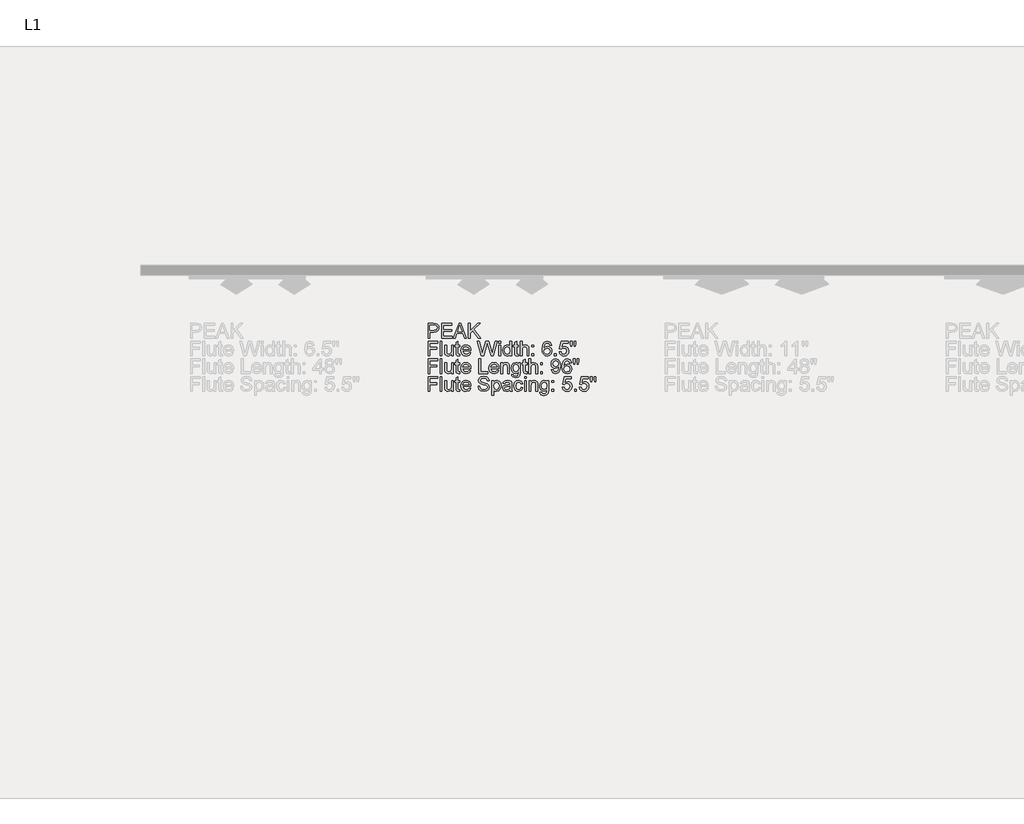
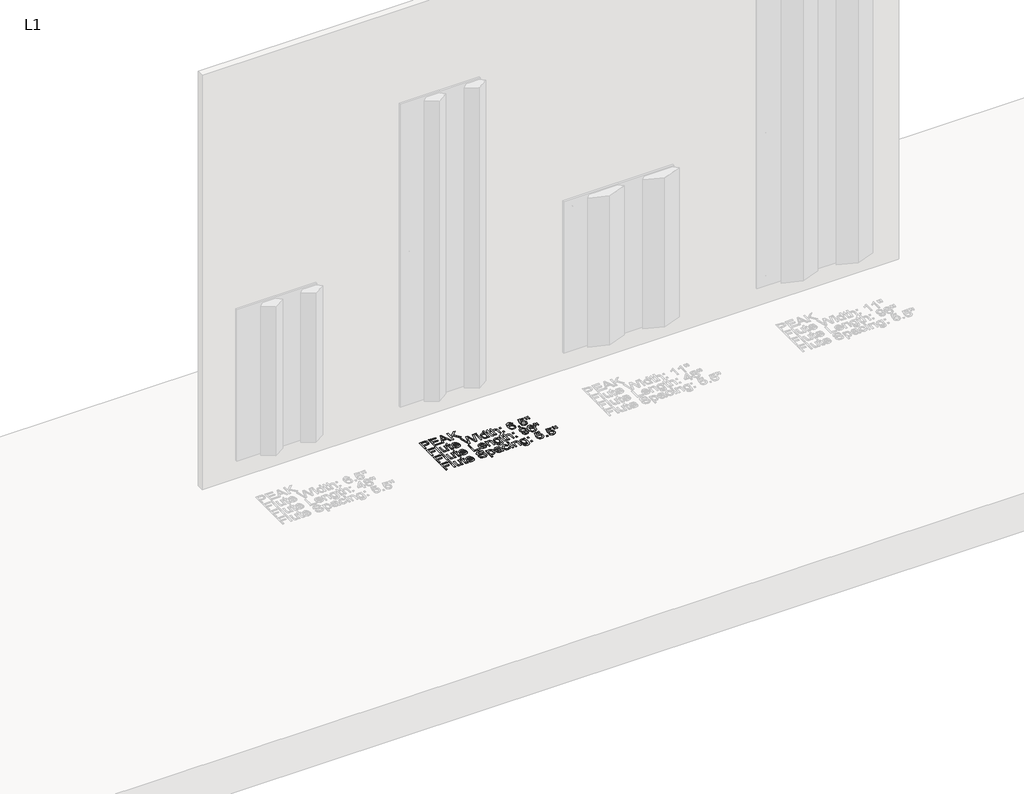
# One storey, part 8 of 17: 1 proxy.
"""IFC4 building model written with IfcOpenShell, lengths in millimetres."""

from ifc_helpers import new_model, si_unit, origin, origin_with_axes, place, context, project, spatial, polyline, outline, extrude, element, save

model = new_model("IFC4")

# Units and contexts
model_context = context("Model", 3, world=origin())
ifc_project = project(units=[si_unit("LENGTHUNIT", "METRE", prefix="MILLI")], contexts=[model_context])

# Site, building, storey
site = spatial("IfcSite", under=ifc_project)
building = spatial("IfcBuilding", under=site)
storey = spatial("IfcBuildingStorey", under=building, Name="L1", Elevation=0.0)

# Proxy
placement = place(None, origin())
element("IfcBuildingElementProxy", 1, Name="3\" Arial", ObjectType="3\" Arial", at=placement, inside=storey, context=model_context, shape_type="SweptSolid", body=[
    extrude(outline(polyline([(8828.5224056, -355.6), (8828.5224056, -279.0522917), (8856.8914049, -279.0522917), (8868.328709, -279.7811395), (8877.6261907, -283.3599691), (8883.6532014, -290.7605776), (8885.9331868, -301.198052), (8884.3937295, -310.2198797), (8879.7753573, -317.7372908), (8871.138978, -322.8111928), (8857.5454991, -324.5024935), (8838.0908691, -324.5024935), (8838.0908691, -355.6), (8828.5224056, -355.6)]), holes=[polyline([(8838.0908691, -314.9340299), (8858.1061513, -314.9340299), (8872.1972089, -311.4206097), (8876.3647233, -301.5344433), (8873.907198, -293.6105594), (8867.450354, -289.2748494), (8857.8818904, -288.6207552), (8838.0908691, -288.6207552), (8838.0908691, -314.9340299)])]), origin_with_axes(), (0.0, 0.0, 1.0), 3.175),
    extrude(outline(polyline([(8899.0898242, -355.6), (8899.0898242, -279.0522917), (8954.1084896, -279.0522917), (8954.1084896, -288.6207552), (8908.6582878, -288.6207552), (8908.6582878, -311.3458561), (8951.7163737, -311.3458561), (8951.7163737, -320.9143197), (8908.6582878, -320.9143197), (8908.6582878, -346.0315365), (8955.3045475, -346.0315365), (8955.3045475, -355.6), (8899.0898242, -355.6)])), origin_with_axes(), (0.0, 0.0, 1.0), 3.175),
    extrude(outline(polyline([(8960.7615619, -355.6), (8991.3171046, -279.0522917), (8999.4652494, -279.0522917), (9030.0021037, -355.6), (9019.8916764, -355.6), (9011.1455027, -331.6788411), (8979.5994745, -331.6788411), (8970.8533008, -355.6), (8960.7615619, -355.6)]), holes=[polyline([(8983.1128947, -322.1103776), (9007.6507709, -322.1103776), (9000.7360609, -303.2911534), (8995.3724886, -288.6207552), (8990.6069452, -301.6465737), (8983.1128947, -322.1103776)])]), origin_with_axes(), (0.0, 0.0, 1.0), 3.175),
    extrude(outline(polyline([(9040.2246615, -355.6), (9040.2246615, -279.0522917), (9049.793125, -279.0522917), (9049.793125, -316.5225444), (9089.0387762, -279.0522917), (9102.4196745, -279.0522917), (9069.4533274, -310.5235663), (9103.6157324, -355.6), (9091.9167907, -355.6), (9062.6694363, -316.9897545), (9049.793125, -329.2867253), (9049.793125, -355.6), (9040.2246615, -355.6)])), origin_with_axes(), (0.0, 0.0, 1.0), 3.175),
    extrude(outline(polyline([(8828.5224056, -448.5448112), (8828.5224056, -371.9971029), (8879.9528971, -371.9971029), (8879.9528971, -381.5655664), (8838.0908691, -381.5655664), (8838.0908691, -404.2906673), (8873.9726074, -404.2906673), (8873.9726074, -413.8591309), (8838.0908691, -413.8591309), (8838.0908691, -448.5448112), (8828.5224056, -448.5448112)])), origin_with_axes(), (0.0, 0.0, 1.0), 3.175),
    extrude(outline(polyline([(8891.9134766, -448.5448112), (8891.9134766, -371.9971029), (8901.4819401, -371.9971029), (8901.4819401, -448.5448112), (8891.9134766, -448.5448112)])), origin_with_axes(), (0.0, 0.0, 1.0), 3.175),
    extrude(outline(polyline([(8951.7163737, -448.5448112), (8951.7163737, -438.8829056), (8944.2223232, -447.0263783), (8934.4482872, -449.7408691), (8925.44982, -447.8346518), (8919.2452694, -443.05042), (8916.3952876, -436.0048912), (8915.8346354, -427.1092103), (8915.8346354, -392.3300879), (8925.403099, -392.3300879), (8925.403099, -422.6053046), (8925.9824395, -432.3606522), (8929.7668416, -438.0886484), (8936.8964683, -440.1724056), (8944.8857615, -438.0419274), (8950.1652361, -432.2391775), (8951.7163737, -421.5774423), (8951.7163737, -392.3300879), (8961.2848372, -392.3300879), (8961.2848372, -448.5448112), (8951.7163737, -448.5448112)])), origin_with_axes(), (0.0, 0.0, 1.0), 3.175),
    extrude(outline(polyline([(8994.7744596, -440.5648621), (8995.9705176, -448.8251373), (8988.8128583, -449.7408691), (8980.7955324, -448.1523547), (8976.7962137, -443.9848403), (8975.6375326, -433.1268768), (8975.6375326, -401.8985514), (8968.4611849, -401.8985514), (8968.4611849, -392.3300879), (8975.6375326, -392.3300879), (8975.6375326, -378.6688636), (8985.2059961, -373.0436536), (8985.2059961, -392.3300879), (8994.7744596, -392.3300879), (8994.7744596, -401.8985514), (8985.2059961, -401.8985514), (8985.2059961, -432.8465507), (8985.710583, -437.7802897), (8987.3458185, -439.5276556), (8990.6069452, -440.1724056), (8994.7744596, -440.5648621)])), origin_with_axes(), (0.0, 0.0, 1.0), 3.175),
    extrude(outline(polyline([(9043.7007049, -431.8), (9053.0822843, -432.9960579), (9044.308078, -445.3490939), (9027.9650675, -449.7408691), (9016.738008, -447.846332), (9008.0992927, -442.1627208), (9002.5908852, -433.0591313), (9000.7547494, -420.9046597), (9002.6095736, -408.3413792), (9008.1740463, -398.9457834), (9016.6959591, -393.0869683), (9027.4231038, -391.1340299), (9037.8161932, -393.0822962), (9046.1208533, -398.927095), (9051.5661875, -408.3040024), (9053.3812988, -420.8485945), (9053.3252336, -423.4275944), (9010.3232129, -423.4275944), (9015.8269483, -435.855384), (9028.1519516, -440.1724056), (9037.5335311, -438.1727462), (9043.7007049, -431.8)]), holes=[polyline([(9010.3232129, -413.8591309), (9043.8128353, -413.8591309), (9039.9817122, -405.1877108), (9027.385727, -400.7024935), (9015.6026874, -404.2813231), (9010.3232129, -413.8591309)])]), origin_with_axes(), (0.0, 0.0, 1.0), 3.175),
    extrude(outline(polyline([(9107.74587, -448.5448112), (9086.8709212, -371.9971029), (9096.7383993, -371.9971029), (9108.8484859, -422.3062901), (9112.586167, -437.8363549), (9116.5854857, -424.100377), (9131.7604709, -371.9971029), (9145.9823474, -371.9971029), (9157.0085065, -409.7663701), (9165.2127165, -437.8363549), (9168.8382671, -422.7548118), (9181.0417958, -371.9971029), (9190.9279622, -371.9971029), (9170.0717019, -448.5448112), (9159.8304557, -448.5448112), (9141.4597533, -389.4894503), (9138.8994417, -381.2478635), (9136.0214273, -391.1714068), (9119.2953045, -448.5448112), (9107.74587, -448.5448112)])), origin_with_axes(), (0.0, 0.0, 1.0), 3.175),
    extrude(outline(polyline([(9199.3003678, -381.5655664), (9199.3003678, -371.9971029), (9208.8688314, -371.9971029), (9208.8688314, -381.5655664), (9199.3003678, -381.5655664)])), origin_with_axes(), (0.0, 0.0, 1.0), 3.175),
    extrude(outline(polyline([(9199.3003678, -448.5448112), (9199.3003678, -392.3300879), (9208.8688314, -392.3300879), (9208.8688314, -448.5448112), (9199.3003678, -448.5448112)])), origin_with_axes(), (0.0, 0.0, 1.0), 3.175),
    extrude(outline(polyline([(9257.907207, -448.5448112), (9257.907207, -439.5183114), (9251.5765097, -447.1852297), (9242.8256639, -449.7408691), (9230.9772149, -446.0405649), (9222.6048093, -435.7152209), (9219.6333529, -420.4935148), (9222.3712043, -405.2624644), (9230.5754142, -394.778269), (9242.7882871, -391.1340299), (9251.6092144, -393.7410625), (9257.907207, -400.5156094), (9257.907207, -371.9971029), (9267.4756706, -371.9971029), (9267.4756706, -448.5448112), (9257.907207, -448.5448112)]), holes=[polyline([(9229.2018164, -420.4561379), (9233.518838, -435.2666992), (9243.704019, -440.1724056), (9253.7677252, -435.4909601), (9257.907207, -421.1849858), (9253.6929716, -405.6549209), (9243.3115625, -400.7024935), (9233.238512, -405.4586927), (9229.2018164, -420.4561379)])]), origin_with_axes(), (0.0, 0.0, 1.0), 3.175),
    extrude(outline(polyline([(9302.1613509, -440.5648621), (9303.3574089, -448.8251373), (9296.1997496, -449.7408691), (9288.1824237, -448.1523547), (9284.183105, -443.9848403), (9283.0244238, -433.1268768), (9283.0244238, -401.8985514), (9275.8480762, -401.8985514), (9275.8480762, -392.3300879), (9283.0244238, -392.3300879), (9283.0244238, -378.6688636), (9292.5928874, -373.0436536), (9292.5928874, -392.3300879), (9302.1613509, -392.3300879), (9302.1613509, -401.8985514), (9292.5928874, -401.8985514), (9292.5928874, -432.8465507), (9293.0974743, -437.7802897), (9294.7327098, -439.5276556), (9297.9938365, -440.1724056), (9302.1613509, -440.5648621)])), origin_with_axes(), (0.0, 0.0, 1.0), 3.175),
    extrude(outline(polyline([(9311.7298145, -448.5448112), (9311.7298145, -371.9971029), (9321.298278, -371.9971029), (9321.298278, -400.1418413), (9328.7596238, -393.3859828), (9337.9496472, -391.1340299), (9348.6954802, -393.5915553), (9355.2177337, -400.3847906), (9357.1800163, -412.9620874), (9357.1800163, -448.5448112), (9347.6115527, -448.5448112), (9347.6115527, -413.9525729), (9344.5653427, -403.860834), (9335.9312994, -400.7024935), (9328.0915133, -402.8329717), (9322.8587598, -408.607689), (9321.298278, -418.6807394), (9321.298278, -448.5448112), (9311.7298145, -448.5448112)])), origin_with_axes(), (0.0, 0.0, 1.0), 3.175),
    extrude(outline(polyline([(9372.7287695, -401.8985514), (9372.7287695, -392.3300879), (9382.2972331, -392.3300879), (9382.2972331, -401.8985514), (9372.7287695, -401.8985514)])), origin_with_axes(), (0.0, 0.0, 1.0), 3.175),
    extrude(outline(polyline([(9372.7287695, -448.5448112), (9372.7287695, -438.9763477), (9382.2972331, -438.9763477), (9382.2972331, -448.5448112), (9372.7287695, -448.5448112)])), origin_with_axes(), (0.0, 0.0, 1.0), 3.175),
    extrude(outline(polyline([(9476.7858106, -392.3300879), (9467.217347, -393.5261458), (9463.5917964, -385.5461967), (9454.0046444, -381.5655664), (9445.3706012, -383.8829287), (9438.8390035, -392.5823814), (9436.1198405, -409.6355512), (9444.5576555, -402.0013377), (9455.0138183, -399.5064355), (9463.853434, -401.2117525), (9471.272731, -406.3277035), (9476.3045841, -414.144129), (9477.9818685, -423.9508698), (9474.823528, -437.1542281), (9466.1334195, -446.4984308), (9453.5934995, -449.7408691), (9442.737872, -447.5917025), (9434.0921485, -441.1442027), (9428.4365698, -429.7629638), (9426.551377, -412.8125802), (9428.6444784, -393.7550788), (9434.9237826, -380.7245882), (9443.4970885, -374.1789742), (9454.6026734, -371.9971029), (9469.7215933, -377.398052), (9476.7858106, -392.3300879)]), holes=[polyline([(9436.1198405, -423.8013625), (9438.3344165, -432.0896703), (9444.2212642, -438.1073368), (9452.8459633, -440.1724056), (9464.1244159, -435.8927608), (9468.413405, -424.2685726), (9464.1804811, -413.1396273), (9452.4535068, -409.0748991), (9440.8760397, -413.1396273), (9436.1198405, -423.8013625)])]), origin_with_axes(), (0.0, 0.0, 1.0), 3.175),
    extrude(outline(polyline([(9491.1385059, -448.5448112), (9491.1385059, -438.9763477), (9500.7069694, -438.9763477), (9500.7069694, -448.5448112), (9491.1385059, -448.5448112)])), origin_with_axes(), (0.0, 0.0, 1.0), 3.175),
    extrude(outline(polyline([(9516.2557227, -428.2118262), (9525.8241862, -427.0157682), (9530.6457948, -436.8739021), (9540.6440917, -440.1724056), (9552.6420479, -435.5844021), (9556.9216927, -423.408906), (9552.9130298, -412.0463555), (9540.7935989, -407.8788411), (9532.3931607, -409.5421092), (9527.0202441, -413.8591309), (9517.4517806, -412.6630729), (9525.8241862, -373.1931608), (9562.9019824, -373.1931608), (9562.9019824, -382.7616243), (9533.561186, -382.7616243), (9529.4497368, -403.8421456), (9543.4473525, -398.3103776), (9552.3897544, -400.0250388), (9559.8183955, -405.1690224), (9564.8222161, -413.0088084), (9566.4901563, -422.810877), (9564.9904117, -432.3793406), (9560.4911781, -440.5648621), (9551.8758233, -447.4468674), (9540.6067148, -449.7408691), (9531.208783, -448.2668212), (9523.7217406, -443.8446773), (9518.5894373, -436.9883685), (9516.2557227, -428.2118262)])), origin_with_axes(), (0.0, 0.0, 1.0), 3.175),
    extrude(outline(polyline([(9577.1986125, -399.5064355), (9574.8625619, -384.7239069), (9574.8625619, -371.9971029), (9584.4310254, -371.9971029), (9584.4310254, -384.7239069), (9582.337924, -399.5064355), (9577.1986125, -399.5064355)])), origin_with_axes(), (0.0, 0.0, 1.0), 3.175),
    extrude(outline(polyline([(9596.2794744, -399.5064355), (9593.9994889, -384.7239069), (9593.9994889, -371.9971029), (9603.5679525, -371.9971029), (9603.5679525, -384.7239069), (9601.3253438, -399.5064355), (9596.2794744, -399.5064355)])), origin_with_axes(), (0.0, 0.0, 1.0), 3.175),
    extrude(outline(polyline([(8828.5224056, -541.4896224), (8828.5224056, -464.9419141), (8879.9528971, -464.9419141), (8879.9528971, -474.5103776), (8838.0908691, -474.5103776), (8838.0908691, -497.2354785), (8873.9726074, -497.2354785), (8873.9726074, -506.8039421), (8838.0908691, -506.8039421), (8838.0908691, -541.4896224), (8828.5224056, -541.4896224)])), origin_with_axes(), (0.0, 0.0, 1.0), 3.175),
    extrude(outline(polyline([(8891.9134766, -541.4896224), (8891.9134766, -464.9419141), (8901.4819401, -464.9419141), (8901.4819401, -541.4896224), (8891.9134766, -541.4896224)])), origin_with_axes(), (0.0, 0.0, 1.0), 3.175),
    extrude(outline(polyline([(8951.7163737, -541.4896224), (8951.7163737, -531.8277168), (8944.2223232, -539.9711895), (8934.4482872, -542.6856803), (8925.44982, -540.779463), (8919.2452694, -535.9952312), (8916.3952876, -528.9497024), (8915.8346354, -520.0540215), (8915.8346354, -485.2748991), (8925.403099, -485.2748991), (8925.403099, -515.5501158), (8925.9824395, -525.3054634), (8929.7668416, -531.0334596), (8936.8964683, -533.1172168), (8944.8857615, -530.9867386), (8950.1652361, -525.1839887), (8951.7163737, -514.5222535), (8951.7163737, -485.2748991), (8961.2848372, -485.2748991), (8961.2848372, -541.4896224), (8951.7163737, -541.4896224)])), origin_with_axes(), (0.0, 0.0, 1.0), 3.175),
    extrude(outline(polyline([(8994.7744596, -533.5096733), (8995.9705176, -541.7699485), (8988.8128583, -542.6856803), (8980.7955324, -541.0971659), (8976.7962137, -536.9296515), (8975.6375326, -526.071688), (8975.6375326, -494.8433626), (8968.4611849, -494.8433626), (8968.4611849, -485.2748991), (8975.6375326, -485.2748991), (8975.6375326, -471.6136748), (8985.2059961, -465.9884648), (8985.2059961, -485.2748991), (8994.7744596, -485.2748991), (8994.7744596, -494.8433626), (8985.2059961, -494.8433626), (8985.2059961, -525.7913619), (8985.710583, -530.7251009), (8987.3458185, -532.4724668), (8990.6069452, -533.1172168), (8994.7744596, -533.5096733)])), origin_with_axes(), (0.0, 0.0, 1.0), 3.175),
    extrude(outline(polyline([(9043.7007049, -524.7448112), (9053.0822843, -525.9408691), (9044.308078, -538.2939051), (9027.9650675, -542.6856803), (9016.738008, -540.7911432), (9008.0992927, -535.107532), (9002.5908852, -526.0039425), (9000.7547494, -513.8494709), (9002.6095736, -501.2861904), (9008.1740463, -491.8905946), (9016.6959591, -486.0317795), (9027.4231038, -484.0788411), (9037.8161932, -486.0271074), (9046.1208533, -491.8719062), (9051.5661875, -501.2488136), (9053.3812988, -513.7934057), (9053.3252336, -516.3724056), (9010.3232129, -516.3724056), (9015.8269483, -528.8001952), (9028.1519516, -533.1172168), (9037.5335311, -531.1175574), (9043.7007049, -524.7448112)]), holes=[polyline([(9010.3232129, -506.8039421), (9043.8128353, -506.8039421), (9039.9817122, -498.132522), (9027.385727, -493.6473047), (9015.6026874, -497.2261343), (9010.3232129, -506.8039421)])]), origin_with_axes(), (0.0, 0.0, 1.0), 3.175),
    extrude(outline(polyline([(9094.0472689, -541.4896224), (9094.0472689, -464.9419141), (9103.6157324, -464.9419141), (9103.6157324, -531.9211589), (9141.8895866, -531.9211589), (9141.8895866, -541.4896224), (9094.0472689, -541.4896224)])), origin_with_axes(), (0.0, 0.0, 1.0), 3.175),
    extrude(outline(polyline([(9190.8158318, -524.7448112), (9200.1974113, -525.9408691), (9191.423205, -538.2939051), (9175.0801945, -542.6856803), (9163.853135, -540.7911432), (9155.2144196, -535.107532), (9149.7060121, -526.0039425), (9147.8698763, -513.8494709), (9149.7247005, -501.2861904), (9155.2891732, -491.8905946), (9163.8110861, -486.0317795), (9174.5382307, -484.0788411), (9184.9313202, -486.0271074), (9193.2359803, -491.8719062), (9198.6813144, -501.2488136), (9200.4964258, -513.7934057), (9200.4403606, -516.3724056), (9157.4383398, -516.3724056), (9162.9420752, -528.8001952), (9175.2670786, -533.1172168), (9184.648658, -531.1175574), (9190.8158318, -524.7448112)]), holes=[polyline([(9157.4383398, -506.8039421), (9190.9279622, -506.8039421), (9187.0968391, -498.132522), (9174.5008539, -493.6473047), (9162.7178144, -497.2261343), (9157.4383398, -506.8039421)])]), origin_with_axes(), (0.0, 0.0, 1.0), 3.175),
    extrude(outline(polyline([(9210.0648893, -541.4896224), (9210.0648893, -485.2748991), (9219.6333529, -485.2748991), (9219.6333529, -493.1240293), (9226.9498636, -486.3401382), (9236.9388162, -484.0788411), (9245.9746602, -485.9009607), (9252.141834, -490.6851924), (9255.0105042, -497.7213771), (9255.5150911, -506.9721377), (9255.5150911, -541.4896224), (9245.9466276, -541.4896224), (9245.9466276, -508.2616377), (9244.8440117, -499.79579), (9240.9474792, -495.319917), (9234.3785047, -493.6473047), (9223.9970955, -497.4036742), (9219.6333529, -511.6629274), (9219.6333529, -541.4896224), (9210.0648893, -541.4896224)])), origin_with_axes(), (0.0, 0.0, 1.0), 3.175),
    extrude(outline(polyline([(9266.2796126, -546.2738542), (9275.8480762, -547.4699121), (9278.9503515, -552.5157816), (9288.2384889, -554.6462598), (9298.0312133, -552.2354555), (9302.7033147, -545.4702527), (9303.3574089, -534.3132747), (9296.6202387, -539.6955355), (9288.4066846, -541.4896224), (9278.5415426, -539.4011931), (9271.185319, -533.1359052), (9266.6089958, -523.950554), (9265.0835547, -513.1019347), (9267.8214061, -498.272685), (9275.7452899, -487.7791454), (9287.9394744, -484.0788411), (9296.4754036, -486.1719425), (9303.3574089, -492.4512467), (9303.3574089, -485.2748991), (9312.9258724, -485.2748991), (9312.9258724, -533.8086878), (9310.3094957, -552.3943069), (9302.0211879, -561.0376944), (9288.0516049, -564.2147233), (9272.1384277, -559.7388502), (9267.6415302, -554.1346647), (9266.2796126, -546.2738542)]), holes=[polyline([(9274.6520182, -512.4478405), (9278.7354348, -527.2584017), (9288.9860251, -531.9211589), (9299.2179271, -527.2864343), (9303.3574089, -512.7281666), (9299.0964524, -498.4595691), (9288.8365179, -493.6473047), (9278.7915, -498.3848154), (9274.6520182, -512.4478405)])]), origin_with_axes(), (0.0, 0.0, 1.0), 3.175),
    extrude(outline(polyline([(9347.6115527, -533.5096733), (9348.8076107, -541.7699485), (9341.6499514, -542.6856803), (9333.6326255, -541.0971659), (9329.6333068, -536.9296515), (9328.4746257, -526.071688), (9328.4746257, -494.8433626), (9321.298278, -494.8433626), (9321.298278, -485.2748991), (9328.4746257, -485.2748991), (9328.4746257, -471.6136748), (9338.0430892, -465.9884648), (9338.0430892, -485.2748991), (9347.6115527, -485.2748991), (9347.6115527, -494.8433626), (9338.0430892, -494.8433626), (9338.0430892, -525.7913619), (9338.5476761, -530.7251009), (9340.1829116, -532.4724668), (9343.4440383, -533.1172168), (9347.6115527, -533.5096733)])), origin_with_axes(), (0.0, 0.0, 1.0), 3.175),
    extrude(outline(polyline([(9357.1800163, -541.4896224), (9357.1800163, -464.9419141), (9366.7484798, -464.9419141), (9366.7484798, -493.0866525), (9374.2098257, -486.330794), (9383.399849, -484.0788411), (9394.1456821, -486.5363664), (9400.6679355, -493.3296018), (9402.6302181, -505.9068986), (9402.6302181, -541.4896224), (9393.0617546, -541.4896224), (9393.0617546, -506.8973841), (9390.0155445, -496.8056452), (9381.3815012, -493.6473047), (9373.5417152, -495.7777829), (9368.3089617, -501.5525002), (9366.7484798, -511.6255506), (9366.7484798, -541.4896224), (9357.1800163, -541.4896224)])), origin_with_axes(), (0.0, 0.0, 1.0), 3.175),
    extrude(outline(polyline([(9418.1789714, -494.8433626), (9418.1789714, -485.2748991), (9427.7474349, -485.2748991), (9427.7474349, -494.8433626), (9418.1789714, -494.8433626)])), origin_with_axes(), (0.0, 0.0, 1.0), 3.175),
    extrude(outline(polyline([(9418.1789714, -541.4896224), (9418.1789714, -531.9211589), (9427.7474349, -531.9211589), (9427.7474349, -541.4896224), (9418.1789714, -541.4896224)])), origin_with_axes(), (0.0, 0.0, 1.0), 3.175),
    extrude(outline(polyline([(9474.3936947, -522.3526953), (9483.9621582, -521.1566374), (9488.2604914, -530.2859234), (9496.4086362, -533.1172168), (9504.1549802, -531.2950973), (9509.4064221, -526.4267677), (9512.53673, -518.1104273), (9513.919672, -507.0095145), (9513.8636068, -505.140674), (9506.2107048, -512.3917753), (9495.7171652, -515.1763477), (9486.9920159, -513.4757028), (9479.7292344, -508.3737681), (9474.8305361, -500.4919331), (9473.1976367, -490.4515874), (9474.9099619, -480.0795224), (9480.0469373, -471.9500661), (9487.7629126, -466.6939521), (9497.2122376, -464.9419141), (9510.8454293, -468.9412328), (9520.2270088, -480.3411601), (9523.4320703, -501.7580726), (9520.236353, -524.9971047), (9510.7332989, -538.1630862), (9495.9601144, -542.6856803), (9481.2523394, -537.3501406), (9474.3936947, -522.3526953)]), holes=[polyline([(9513.8636068, -490.2273265), (9509.7334692, -478.7526456), (9498.7633753, -474.5103776), (9487.2513176, -479.0796927), (9482.7661003, -490.9187975), (9487.0083683, -501.5244675), (9498.5017376, -505.6078841), (9509.5372409, -501.5244675), (9513.8636068, -490.2273265)])]), origin_with_axes(), (0.0, 0.0, 1.0), 3.175),
    extrude(outline(polyline([(9580.8428516, -485.2748991), (9571.274388, -486.470957), (9567.6488374, -478.4910079), (9558.0616854, -474.5103776), (9549.4276422, -476.8277399), (9542.8960445, -485.5271926), (9540.1768815, -502.5803624), (9548.6146965, -494.9461489), (9559.0708593, -492.4512467), (9567.9104751, -494.1565637), (9575.329772, -499.2725147), (9580.3616251, -507.0889402), (9582.0389095, -516.8956809), (9578.880569, -530.0990393), (9570.1904605, -539.443242), (9557.6505405, -542.6856803), (9546.7949131, -540.5365137), (9538.1491895, -534.0890139), (9532.4936109, -522.707775), (9530.608418, -505.7573914), (9532.7015194, -486.69989), (9538.9808236, -473.6693994), (9547.5541295, -467.1237854), (9558.6597144, -464.9419141), (9573.7786343, -470.3428632), (9580.8428516, -485.2748991)]), holes=[polyline([(9540.1768815, -516.7461737), (9542.3914576, -525.0344815), (9548.2783052, -531.052148), (9556.9030043, -533.1172168), (9568.1814569, -528.837572), (9572.470446, -517.2133838), (9568.2375222, -506.0844385), (9556.5105478, -502.0197103), (9544.9330807, -506.0844385), (9540.1768815, -516.7461737)])]), origin_with_axes(), (0.0, 0.0, 1.0), 3.175),
    extrude(outline(polyline([(9592.7473658, -492.4512467), (9590.4113151, -477.6687181), (9590.4113151, -464.9419141), (9599.9797787, -464.9419141), (9599.9797787, -477.6687181), (9597.8866773, -492.4512467), (9592.7473658, -492.4512467)])), origin_with_axes(), (0.0, 0.0, 1.0), 3.175),
    extrude(outline(polyline([(9611.8282276, -492.4512467), (9609.5482422, -477.6687181), (9609.5482422, -464.9419141), (9619.1167057, -464.9419141), (9619.1167057, -477.6687181), (9616.8740971, -492.4512467), (9611.8282276, -492.4512467)])), origin_with_axes(), (0.0, 0.0, 1.0), 3.175),
    extrude(outline(polyline([(8828.5224056, -634.4344336), (8828.5224056, -557.8867253), (8879.9528971, -557.8867253), (8879.9528971, -567.4551888), (8838.0908691, -567.4551888), (8838.0908691, -590.1802897), (8873.9726074, -590.1802897), (8873.9726074, -599.7487533), (8838.0908691, -599.7487533), (8838.0908691, -634.4344336), (8828.5224056, -634.4344336)])), origin_with_axes(), (0.0, 0.0, 1.0), 3.175),
    extrude(outline(polyline([(8891.9134766, -634.4344336), (8891.9134766, -557.8867253), (8901.4819401, -557.8867253), (8901.4819401, -634.4344336), (8891.9134766, -634.4344336)])), origin_with_axes(), (0.0, 0.0, 1.0), 3.175),
    extrude(outline(polyline([(8951.7163737, -634.4344336), (8951.7163737, -624.772528), (8944.2223232, -632.9160007), (8934.4482872, -635.6304915), (8925.44982, -633.7242742), (8919.2452694, -628.9400424), (8916.3952876, -621.8945136), (8915.8346354, -612.9988327), (8915.8346354, -578.2197103), (8925.403099, -578.2197103), (8925.403099, -608.494927), (8925.9824395, -618.2502746), (8929.7668416, -623.9782708), (8936.8964683, -626.062028), (8944.8857615, -623.9315498), (8950.1652361, -618.1287999), (8951.7163737, -607.4670647), (8951.7163737, -578.2197103), (8961.2848372, -578.2197103), (8961.2848372, -634.4344336), (8951.7163737, -634.4344336)])), origin_with_axes(), (0.0, 0.0, 1.0), 3.175),
    extrude(outline(polyline([(8994.7744596, -626.4544845), (8995.9705176, -634.7147597), (8988.8128583, -635.6304915), (8980.7955324, -634.0419771), (8976.7962137, -629.8744627), (8975.6375326, -619.0164992), (8975.6375326, -587.7881738), (8968.4611849, -587.7881738), (8968.4611849, -578.2197103), (8975.6375326, -578.2197103), (8975.6375326, -564.558486), (8985.2059961, -558.933276), (8985.2059961, -578.2197103), (8994.7744596, -578.2197103), (8994.7744596, -587.7881738), (8985.2059961, -587.7881738), (8985.2059961, -618.7361731), (8985.710583, -623.6699121), (8987.3458185, -625.417278), (8990.6069452, -626.062028), (8994.7744596, -626.4544845)])), origin_with_axes(), (0.0, 0.0, 1.0), 3.175),
    extrude(outline(polyline([(9043.7007049, -617.6896224), (9053.0822843, -618.8856803), (9044.308078, -631.2387163), (9027.9650675, -635.6304915), (9016.738008, -633.7359544), (9008.0992927, -628.0523432), (9002.5908852, -618.9487537), (9000.7547494, -606.7942821), (9002.6095736, -594.2310016), (9008.1740463, -584.8354058), (9016.6959591, -578.9765907), (9027.4231038, -577.0236523), (9037.8161932, -578.9719186), (9046.1208533, -584.8167174), (9051.5661875, -594.1936248), (9053.3812988, -606.7382169), (9053.3252336, -609.3172168), (9010.3232129, -609.3172168), (9015.8269483, -621.7450064), (9028.1519516, -626.062028), (9037.5335311, -624.0623686), (9043.7007049, -617.6896224)]), holes=[polyline([(9010.3232129, -599.7487533), (9043.8128353, -599.7487533), (9039.9817122, -591.0773332), (9027.385727, -586.5921159), (9015.6026874, -590.1709455), (9010.3232129, -599.7487533)])]), origin_with_axes(), (0.0, 0.0, 1.0), 3.175),
    extrude(outline(polyline([(9090.4590951, -608.1211589), (9100.0275586, -608.1211589), (9103.1111455, -617.6989666), (9110.6425728, -623.7540099), (9122.1172537, -626.062028), (9132.1155506, -624.3146621), (9138.5723946, -619.5117419), (9140.6935286, -613.0922747), (9139.1050142, -607.1213292), (9132.6014491, -602.7762749), (9118.6692429, -599.1226917), (9103.6717976, -594.4038693), (9095.5329971, -587.2835869), (9092.8512109, -577.7711886), (9096.1684029, -566.9412577), (9105.8583411, -559.2976999), (9120.0428407, -556.6906673), (9135.1804491, -559.4191745), (9145.272188, -567.4365004), (9149.0659342, -579.4157682), (9139.4974707, -579.4157682), (9134.0778332, -569.585667), (9120.4166088, -566.2591309), (9106.7180077, -569.5482902), (9102.4196745, -577.4908625), (9105.4658846, -584.1252464), (9121.0893914, -589.4701303), (9138.0210867, -594.2730505), (9147.2811915, -602.0287387), (9150.2619922, -612.8493254), (9146.8326698, -624.2959737), (9136.9651918, -632.6496909), (9122.4910218, -635.6304915), (9105.4004751, -632.4160858), (9094.5892326, -622.7354918), (9090.4590951, -608.1211589)])), origin_with_axes(), (0.0, 0.0, 1.0), 3.175),
    extrude(outline(polyline([(9163.4186296, -655.9634766), (9163.4186296, -578.2197103), (9172.9870931, -578.2197103), (9172.9870931, -587.6012898), (9179.6027886, -579.6680617), (9188.5358464, -577.0236523), (9200.6646214, -580.7239566), (9208.5885053, -591.1520868), (9211.2609473, -605.8972386), (9208.2427698, -621.3992709), (9199.4779077, -631.9582199), (9187.3771652, -635.6304915), (9179.0514806, -633.1729662), (9172.9870931, -626.9590715), (9172.9870931, -655.9634766), (9163.4186296, -655.9634766)]), holes=[polyline([(9172.9870931, -606.7755937), (9177.1265749, -621.3525498), (9187.1715928, -626.062028), (9197.4221831, -621.1843542), (9201.6924837, -606.0654343), (9197.5249693, -591.4511013), (9187.5640493, -586.5921159), (9177.406901, -591.75946), (9172.9870931, -606.7755937)])]), origin_with_axes(), (0.0, 0.0, 1.0), 3.175),
    extrude(outline(polyline([(9257.907207, -627.2580859), (9248.6284138, -633.7429626), (9238.3778234, -635.6304915), (9224.4829941, -631.089209), (9219.6333529, -619.4837093), (9221.4648166, -611.9149051), (9226.277081, -606.420514), (9232.9768743, -603.2808619), (9241.2558379, -601.8418547), (9257.8511418, -598.5526953), (9257.907207, -596.4222171), (9255.2721419, -589.3579999), (9244.6945044, -586.5921159), (9235.0139105, -588.4329238), (9230.3978744, -594.9645215), (9220.8294108, -593.7684635), (9224.9688926, -584.4242609), (9233.3039214, -578.9485581), (9245.9279392, -577.0236523), (9257.5240947, -578.7242972), (9264.0743808, -582.9945979), (9267.0084604, -589.4888187), (9267.4756706, -597.8612243), (9267.4756706, -609.7657385), (9267.9615691, -626.3890751), (9269.8677865, -634.4344336), (9260.2993229, -634.4344336), (9257.907207, -627.2580859)]), holes=[polyline([(9257.907207, -608.1211589), (9242.4705842, -611.0552385), (9234.2383417, -612.6063761), (9230.5100048, -615.1293109), (9229.2018164, -618.8109267), (9232.0517982, -623.987615), (9240.4148596, -626.062028), (9250.0954536, -623.7726983), (9256.337381, -618.2315862), (9257.8511418, -610.8309776), (9257.907207, -608.1211589)])]), origin_with_axes(), (0.0, 0.0, 1.0), 3.175),
    extrude(outline(polyline([(9316.5140462, -614.1014486), (9326.0825098, -615.2975065), (9318.4015752, -630.2388866), (9303.22659, -635.6304915), (9293.0484173, -633.7499707), (9285.0894926, -628.1084084), (9279.9525172, -618.9534258), (9278.2401921, -606.5326444), (9281.1649275, -590.6381556), (9290.0792969, -580.4249421), (9303.0957712, -577.0236523), (9317.6446948, -581.6957537), (9324.8864518, -594.9645215), (9315.3179883, -596.1605794), (9310.879492, -588.993576), (9303.1705248, -586.5921159), (9292.0789562, -591.3202824), (9287.8086556, -606.2710067), (9291.9855142, -621.361894), (9302.9088871, -626.062028), (9311.9260427, -623.1279484), (9316.5140462, -614.1014486)])), origin_with_axes(), (0.0, 0.0, 1.0), 3.175),
    extrude(outline(polyline([(9334.4549154, -634.4344336), (9334.4549154, -578.2197103), (9344.0233789, -578.2197103), (9344.0233789, -634.4344336), (9334.4549154, -634.4344336)])), origin_with_axes(), (0.0, 0.0, 1.0), 3.175),
    extrude(outline(polyline([(9334.4549154, -567.4551888), (9334.4549154, -557.8867253), (9344.0233789, -557.8867253), (9344.0233789, -567.4551888), (9334.4549154, -567.4551888)])), origin_with_axes(), (0.0, 0.0, 1.0), 3.175),
    extrude(outline(polyline([(9358.3760742, -634.4344336), (9358.3760742, -578.2197103), (9367.9445378, -578.2197103), (9367.9445378, -586.0688405), (9375.2610485, -579.2849494), (9385.2500011, -577.0236523), (9394.2858451, -578.8457719), (9400.4530189, -583.6300036), (9403.3216891, -590.6661883), (9403.826276, -599.9169489), (9403.826276, -634.4344336), (9394.2578125, -634.4344336), (9394.2578125, -601.2064489), (9393.1551966, -592.7406012), (9389.2586641, -588.2647282), (9382.6896896, -586.5921159), (9372.3082804, -590.3484854), (9367.9445378, -604.6077386), (9367.9445378, -634.4344336), (9358.3760742, -634.4344336)])), origin_with_axes(), (0.0, 0.0, 1.0), 3.175),
    extrude(outline(polyline([(9414.5907975, -639.2186654), (9424.1592611, -640.4147233), (9427.2615364, -645.4605928), (9436.5496738, -647.591071), (9446.3423982, -645.1802667), (9451.0144996, -638.4150639), (9451.6685938, -627.2580859), (9444.9314236, -632.6403467), (9436.7178695, -634.4344336), (9426.8527275, -632.3460043), (9419.4965039, -626.0807164), (9414.9201807, -616.8953652), (9413.3947396, -606.0467459), (9416.132591, -591.2174962), (9424.0564748, -580.7239566), (9436.2506593, -577.0236523), (9444.7865885, -579.1167537), (9451.6685938, -585.3960579), (9451.6685938, -578.2197103), (9461.2370573, -578.2197103), (9461.2370573, -626.753499), (9458.6206805, -645.3391181), (9450.3323728, -653.9825056), (9436.3627898, -657.1595345), (9420.4496126, -652.6836614), (9415.9527151, -647.0794759), (9414.5907975, -639.2186654)]), holes=[polyline([(9422.9632031, -605.3926517), (9427.0466197, -620.2032129), (9437.29721, -624.8659701), (9447.529112, -620.2312455), (9451.6685938, -605.6729778), (9447.4076373, -591.4043803), (9437.1477028, -586.5921159), (9427.1026849, -591.3296266), (9422.9632031, -605.3926517)])]), origin_with_axes(), (0.0, 0.0, 1.0), 3.175),
    extrude(outline(polyline([(9477.9818685, -634.4344336), (9477.9818685, -624.8659701), (9487.550332, -624.8659701), (9487.550332, -634.4344336), (9477.9818685, -634.4344336)])), origin_with_axes(), (0.0, 0.0, 1.0), 3.175),
    extrude(outline(polyline([(9477.9818685, -587.7881738), (9477.9818685, -578.2197103), (9487.550332, -578.2197103), (9487.550332, -587.7881738), (9477.9818685, -587.7881738)])), origin_with_axes(), (0.0, 0.0, 1.0), 3.175),
    extrude(outline(polyline([(9533.0005339, -614.1014486), (9542.5689974, -612.9053906), (9547.390606, -622.7635245), (9557.3889028, -626.062028), (9569.3868591, -621.4740245), (9573.6665039, -609.2985284), (9569.657841, -597.9359779), (9557.5384101, -593.7684635), (9549.1379719, -595.4317316), (9543.7650553, -599.7487533), (9534.1965918, -598.5526953), (9542.5689974, -559.0827832), (9579.6467936, -559.0827832), (9579.6467936, -568.6512467), (9550.3059972, -568.6512467), (9546.194548, -589.731768), (9560.1921637, -584.2), (9569.1345656, -585.9146612), (9576.5632067, -591.0586448), (9581.5670273, -598.8984308), (9583.2349675, -608.7004994), (9581.7352229, -618.268963), (9577.2359893, -626.4544845), (9568.6206345, -633.3364898), (9557.351526, -635.6304915), (9547.9535942, -634.1564436), (9540.4665518, -629.7342996), (9535.3342485, -622.8779909), (9533.0005339, -614.1014486)])), origin_with_axes(), (0.0, 0.0, 1.0), 3.175),
    extrude(outline(polyline([(9596.3916048, -634.4344336), (9596.3916048, -624.8659701), (9605.9600684, -624.8659701), (9605.9600684, -634.4344336), (9596.3916048, -634.4344336)])), origin_with_axes(), (0.0, 0.0, 1.0), 3.175),
    extrude(outline(polyline([(9621.5088216, -614.1014486), (9631.0772852, -612.9053906), (9635.8988937, -622.7635245), (9645.8971906, -626.062028), (9657.8951468, -621.4740245), (9662.1747917, -609.2985284), (9658.1661287, -597.9359779), (9646.0466979, -593.7684635), (9637.6462596, -595.4317316), (9632.2733431, -599.7487533), (9622.7048796, -598.5526953), (9631.0772852, -559.0827832), (9668.1550814, -559.0827832), (9668.1550814, -568.6512467), (9638.814285, -568.6512467), (9634.7028358, -589.731768), (9648.7004514, -584.2), (9657.6428534, -585.9146612), (9665.0714945, -591.0586448), (9670.075315, -598.8984308), (9671.7432552, -608.7004994), (9670.2435107, -618.268963), (9665.7442771, -626.4544845), (9657.1289222, -633.3364898), (9645.8598138, -635.6304915), (9636.461882, -634.1564436), (9628.9748396, -629.7342996), (9623.8425362, -622.8779909), (9621.5088216, -614.1014486)])), origin_with_axes(), (0.0, 0.0, 1.0), 3.175),
    extrude(outline(polyline([(9682.4517115, -585.3960579), (9680.1156608, -570.6135293), (9680.1156608, -557.8867253), (9689.6841244, -557.8867253), (9689.6841244, -570.6135293), (9687.591023, -585.3960579), (9682.4517115, -585.3960579)])), origin_with_axes(), (0.0, 0.0, 1.0), 3.175),
    extrude(outline(polyline([(9701.5325734, -585.3960579), (9699.2525879, -570.6135293), (9699.2525879, -557.8867253), (9708.8210514, -557.8867253), (9708.8210514, -570.6135293), (9706.5784428, -585.3960579), (9701.5325734, -585.3960579)])), origin_with_axes(), (0.0, 0.0, 1.0), 3.175),
])

save(model, "model.ifc")
